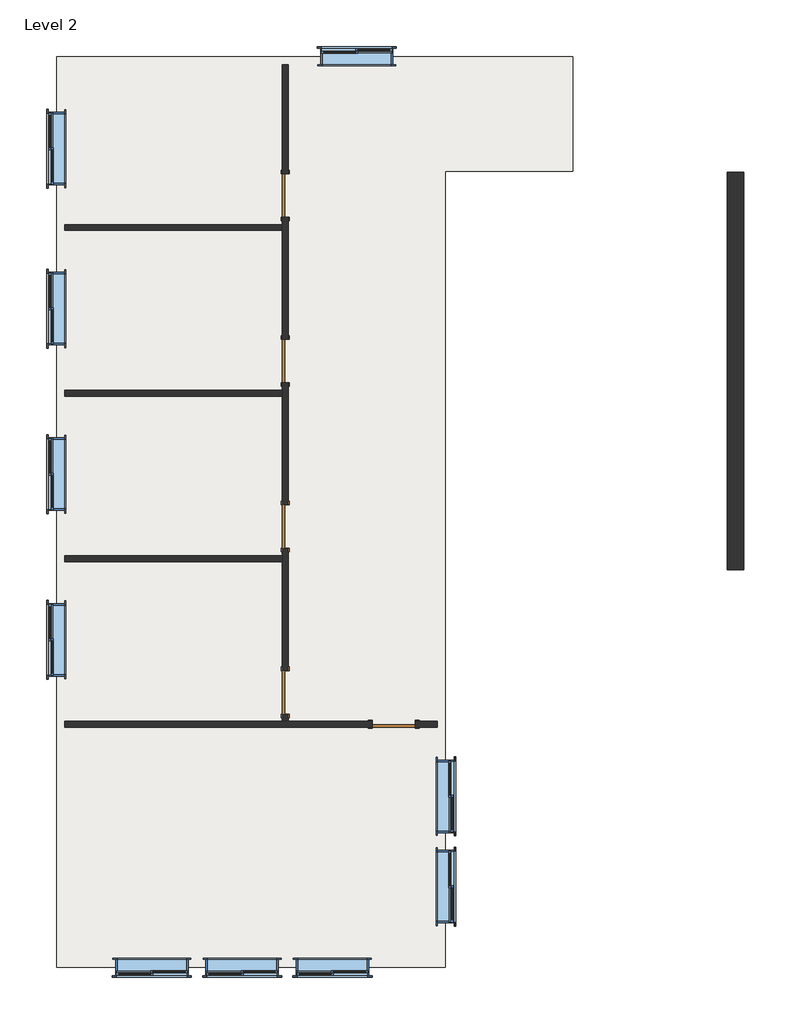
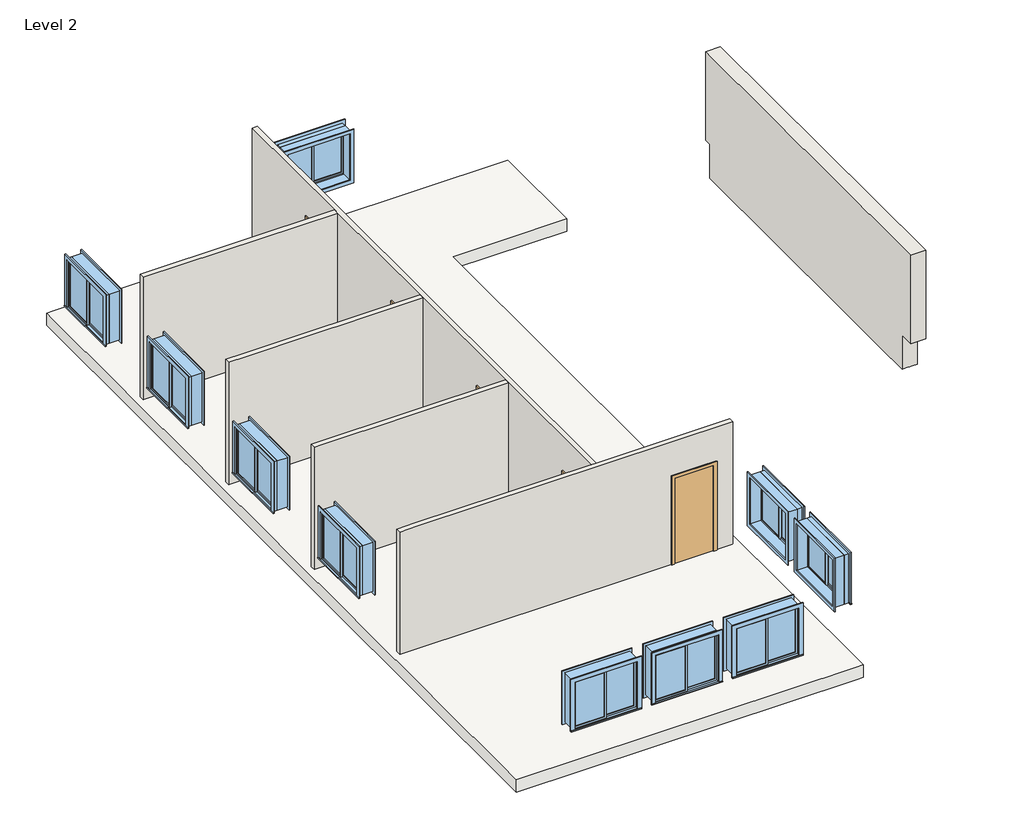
# One storey: 10 windows, 6 walls, 5 doors, 1 slab.
"""IFC4 building model written with IfcOpenShell, lengths in millimetres."""

from ifc_helpers import new_model, si_unit, frame, origin, place, context, project, spatial, polyline, outline, extrude, faceted_brep, transform, mapped, element, save
from components import door_eb9f8b14, window_8313e728

model = new_model("IFC4")

# Units and contexts
model_context = context("Model", 3, world=origin())
ifc_project = project(units=[si_unit("LENGTHUNIT", "METRE", prefix="MILLI")], contexts=[model_context])

# Site, building, storey
site = spatial("IfcSite", under=ifc_project)
building = spatial("IfcBuilding", under=site)
storey = spatial("IfcBuildingStorey", under=building, Name="Level 2", Elevation=3060.0)

# Doors
placement = place(None, origin())
door_shape = door_eb9f8b14(model_context)
element("IfcDoor", 1, ObjectType="Single-Flush : 36\" x 84\"", at=placement, inside=storey, context=model_context, shape_type="MappedRepresentation", body=[
    mapped(door_shape, transform((-6668.5516552, -3294.8769576, 3060.0), x_axis=(1.0, 0.0, 0.0), y_axis=(0.0, 1.0, 0.0), z_axis=(0.0, 0.0, 1.0))),
])
element("IfcDoor", 2, ObjectType="Single-Flush : 36\" x 84\"", at=placement, inside=storey, context=model_context, shape_type="MappedRepresentation", body=[
    mapped(door_shape, transform((-8949.7891552, -2623.3644576, 3060.0), x_axis=(0.0, -1.0, 0.0), y_axis=(1.0, 0.0, 0.0), z_axis=(0.0, 0.0, 1.0))),
])
element("IfcDoor", 3, ObjectType="Single-Flush : 36\" x 84\"", at=placement, inside=storey, context=model_context, shape_type="MappedRepresentation", body=[
    mapped(door_shape, transform((-8949.7891552, 862.7855424, 3060.0), x_axis=(0.0, -1.0, 0.0), y_axis=(1.0, 0.0, 0.0), z_axis=(0.0, 0.0, 1.0))),
])
element("IfcDoor", 4, ObjectType="Single-Flush : 36\" x 84\"", at=placement, inside=storey, context=model_context, shape_type="MappedRepresentation", body=[
    mapped(door_shape, transform((-8949.7891552, 4339.4105424, 3060.0), x_axis=(0.0, -1.0, 0.0), y_axis=(1.0, 0.0, 0.0), z_axis=(0.0, 0.0, 1.0))),
])
element("IfcDoor", 5, ObjectType="Single-Flush : 36\" x 84\"", at=placement, inside=storey, context=model_context, shape_type="MappedRepresentation", body=[
    mapped(door_shape, transform((-8949.7891552, 7820.7980424, 3060.0), x_axis=(0.0, -1.0, 0.0), y_axis=(1.0, 0.0, 0.0), z_axis=(0.0, 0.0, 1.0))),
])

# Slab
element("IfcSlab", 6, ObjectType="Generic - 12\"", at=placement, inside=storey, context=model_context, shape_type="Brep", body=[
    faceted_brep([(-13748.8016552, 10733.8605424, 2755.2), (-13583.7016552, 10733.8605424, 2755.2), (-2909.3516552, 10733.8605424, 2755.2), (-2909.3516552, 10568.7605424, 2755.2), (-2909.3516552, 8335.327236, 2755.2), (-5589.0516552, 8335.327236, 2755.2), (-5589.0516552, 300.8105424, 2755.2), (-5589.0516552, -8398.6894576, 2755.2), (-5754.1516552, -8398.6894576, 2755.2), (-13748.8016552, -8398.6894576, 2755.2), (-13748.8016552, -8233.5894576, 2755.2), (-13748.8016552, 10733.8605424, 3060.0), (-13748.8016552, -8233.5894576, 3060.0), (-13748.8016552, -8398.6894576, 3060.0), (-5754.1516552, -8398.6894576, 3060.0), (-5589.0516552, -8398.6894576, 3060.0), (-5589.0516552, 300.8105424, 3060.0), (-5589.0516552, 8335.327236, 3060.0), (-2909.3516552, 8335.327236, 3060.0), (-2909.3516552, 10568.7605424, 3060.0), (-2909.3516552, 10733.8605424, 3060.0), (-13583.7016552, 10733.8605424, 3060.0)], [[[0, 1, 2, 3, 4, 5, 6, 7, 8, 9, 10]], [[11, 12, 13, 14, 15, 16, 17, 18, 19, 20, 21]], [[2, 1, 0, 11, 21, 20]], [[4, 3, 2, 20, 19, 18]], [[5, 4, 18, 17]], [[7, 6, 5, 17, 16, 15]], [[9, 8, 7, 15, 14, 13]], [[0, 10, 9, 13, 12, 11]]]),
])

# Walls
element("IfcWall", 7, ObjectType="Exterior - Brick on Mtl. Stud", at=placement, inside=storey, context=model_context, shape_type="Brep", body=[
    faceted_brep([(341.8483448, 8130.3605424, 3060.0), (341.8483448, 2791.5980424, 3060.0), (341.8483448, 1165.9980424, 3060.0), (341.8483448, 300.8105424, 3060.0), (341.8483448, 300.8105424, 3900.0), (341.8483448, -51.6144576, 3900.0), (341.8483448, -51.6144576, 6100.0), (341.8483448, 300.8105424, 6100.0), (341.8483448, 8306.5730424, 6100.0), (341.8483448, 8306.5730424, 3900.0), (341.8483448, 8130.3605424, 3900.0), (694.2733448, 8130.3605424, 3060.0), (694.2733448, 8130.3605424, 3900.0), (694.2733448, 8306.5730424, 3900.0), (694.2733448, 8306.5730424, 6100.0), (694.2733448, -51.6144576, 6100.0), (694.2733448, -51.6144576, 3900.0), (694.2733448, 300.8105424, 3900.0), (694.2733448, 300.8105424, 3060.0), (465.6733448, 8130.3605424, 3060.0), (545.0483448, 8130.3605424, 3060.0), (545.0483448, 300.8105424, 3060.0), (518.0608448, 300.8105424, 3060.0), (465.6733448, 300.8105424, 3060.0)], [[[0, 1, 2, 3, 4, 5, 6, 7, 8, 9, 10]], [[11, 12, 13, 14, 15, 16, 17, 18]], [[3, 2, 1, 0, 19, 20, 11, 18, 21, 22, 23]], [[8, 7, 6, 15, 14]], [[9, 8, 14, 13]], [[9, 13, 12, 10]], [[0, 10, 12, 11, 20, 19]], [[16, 5, 4, 17]], [[4, 3, 23, 22, 21, 18, 17]], [[6, 5, 16, 15]]]),
])
element("IfcWall", 8, ObjectType="Interior - 4 7/8\" Partition (1-hr)", at=placement, inside=storey, context=model_context, shape_type="Brep", body=[
    faceted_brep([(-8887.8766552, 4796.6105424, 3060.0), (-8887.8766552, 7363.5980424, 3060.0), (-8887.8766552, 7363.5980424, 5193.6), (-8887.8766552, 8277.9980424, 5193.6), (-8887.8766552, 8277.9980424, 3060.0), (-8887.8766552, 10568.7605424, 3060.0), (-8887.8766552, 10568.7605424, 6100.0), (-8887.8766552, -3232.9644576, 6100.0), (-8887.8766552, -3232.9644576, 3060.0), (-8887.8766552, -3080.5644576, 3060.0), (-8887.8766552, -3080.5644576, 5193.6), (-8887.8766552, -2166.1644576, 5193.6), (-8887.8766552, -2166.1644576, 3060.0), (-8887.8766552, 405.5855424, 3060.0), (-8887.8766552, 405.5855424, 5193.6), (-8887.8766552, 1319.9855424, 5193.6), (-8887.8766552, 1319.9855424, 3060.0), (-8887.8766552, 3882.2105424, 3060.0), (-8887.8766552, 3882.2105424, 5193.6), (-8887.8766552, 4796.6105424, 5193.6), (-9011.7016552, 7363.5980424, 5193.6), (-9011.7016552, 7363.5980424, 3060.0), (-9011.7016552, 7211.1980424, 3060.0), (-9011.7016552, 7087.3730424, 3060.0), (-9011.7016552, 4796.6105424, 3060.0), (-9011.7016552, 4796.6105424, 5193.6), (-9011.7016552, 3882.2105424, 5193.6), (-9011.7016552, 3882.2105424, 3060.0), (-9011.7016552, 3729.8105424, 3060.0), (-9011.7016552, 3605.9855424, 3060.0), (-9011.7016552, 1319.9855424, 3060.0), (-9011.7016552, 1319.9855424, 5193.6), (-9011.7016552, 405.5855424, 5193.6), (-9011.7016552, 405.5855424, 3060.0), (-9011.7016552, 248.4230424, 3060.0), (-9011.7016552, 124.5980424, 3060.0), (-9011.7016552, -2166.1644576, 3060.0), (-9011.7016552, -2166.1644576, 5193.6), (-9011.7016552, -3080.5644576, 5193.6), (-9011.7016552, -3080.5644576, 3060.0), (-9011.7016552, -3232.9644576, 3060.0), (-9011.7016552, -3232.9644576, 6100.0), (-9011.7016552, 124.5980424, 6100.0), (-9011.7016552, 248.4230424, 6100.0), (-9011.7016552, 3605.9855424, 6100.0), (-9011.7016552, 3729.8105424, 6100.0), (-9011.7016552, 7087.3730424, 6100.0), (-9011.7016552, 7211.1980424, 6100.0), (-9011.7016552, 10568.7605424, 6100.0), (-9011.7016552, 10568.7605424, 3060.0), (-9011.7016552, 8277.9980424, 3060.0), (-9011.7016552, 8277.9980424, 5193.6)], [[[0, 1, 2, 3, 4, 5, 6, 7, 8, 9, 10, 11, 12, 13, 14, 15, 16, 17, 18, 19]], [[20, 21, 22, 23, 24, 25, 26, 27, 28, 29, 30, 31, 32, 33, 34, 35, 36, 37, 38, 39, 40, 41, 42, 43, 44, 45, 46, 47, 48, 49, 50, 51]], [[40, 39, 9, 8]], [[36, 35, 34, 33, 13, 12]], [[30, 29, 28, 27, 17, 16]], [[50, 49, 5, 4]], [[24, 23, 22, 21, 1, 0]], [[7, 6, 48, 47, 46, 45, 44, 43, 42, 41]], [[8, 7, 41, 40]], [[10, 9, 39, 38]], [[11, 10, 38, 37]], [[12, 11, 37, 36]], [[14, 13, 33, 32]], [[15, 14, 32, 31]], [[16, 15, 31, 30]], [[18, 17, 27, 26]], [[19, 18, 26, 25]], [[0, 19, 25, 24]], [[2, 1, 21, 20]], [[3, 2, 20, 51]], [[4, 3, 51, 50]], [[6, 5, 49, 48]]]),
])
element("IfcWall", 9, ObjectType="Interior - 4 7/8\" Partition (1-hr)", at=placement, inside=storey, context=model_context, shape_type="Brep", body=[
    faceted_brep([(-6211.3516552, -3356.7894576, 5193.6), (-6211.3516552, -3356.7894576, 3060.0), (-5754.1516552, -3356.7894576, 3060.0), (-5754.1516552, -3356.7894576, 6100.0), (-13177.3016552, -3356.7894576, 6100.0), (-13583.7016552, -3356.7894576, 6100.0), (-13583.7016552, -3356.7894576, 3060.0), (-13177.3016552, -3356.7894576, 3060.0), (-7125.7516552, -3356.7894576, 3060.0), (-7125.7516552, -3356.7894576, 5193.6), (-5754.1516552, -3232.9644576, 3060.0), (-6211.3516552, -3232.9644576, 3060.0), (-6211.3516552, -3232.9644576, 5193.6), (-7125.7516552, -3232.9644576, 5193.6), (-7125.7516552, -3232.9644576, 3060.0), (-8887.8766552, -3232.9644576, 3060.0), (-9011.7016552, -3232.9644576, 3060.0), (-13177.3016552, -3232.9644576, 3060.0), (-13583.7016552, -3232.9644576, 3060.0), (-13583.7016552, -3232.9644576, 6100.0), (-13177.3016552, -3232.9644576, 6100.0), (-9011.7016552, -3232.9644576, 6100.0), (-8887.8766552, -3232.9644576, 6100.0), (-5754.1516552, -3232.9644576, 6100.0)], [[[0, 1, 2, 3, 4, 5, 6, 7, 8, 9]], [[10, 11, 12, 13, 14, 15, 16, 17, 18, 19, 20, 21, 22, 23]], [[2, 1, 11, 10]], [[8, 7, 6, 18, 17, 16, 15, 14]], [[5, 4, 3, 23, 22, 21, 20, 19]], [[12, 11, 1, 0]], [[13, 12, 0, 9]], [[14, 13, 9, 8]], [[3, 2, 10, 23]], [[6, 5, 19, 18]]]),
])
element("IfcWall", 10, ObjectType="Interior - 4 7/8\" Partition (1-hr)", at=placement, inside=storey, context=model_context, shape_type="SweptSolid", body=[
    extrude(outline(polyline([(-9011.7016552, 124.5980424), (-13583.7016552, 124.5980424), (-13583.7016552, 248.4230424), (-9011.7016552, 248.4230424), (-9011.7016552, 124.5980424)])), frame((0.0, 0.0, 3060.0), z_axis=(0.0, 0.0, 1.0), x_axis=(1.0, 0.0, 0.0)), (0.0, 0.0, 1.0), 3040.0),
])
element("IfcWall", 11, ObjectType="Interior - 4 7/8\" Partition (1-hr)", at=placement, inside=storey, context=model_context, shape_type="Brep", body=[
    faceted_brep([(-13583.7016552, 3605.9855424, 3060.0), (-13177.3016552, 3605.9855424, 3060.0), (-9011.7016552, 3605.9855424, 3060.0), (-9011.7016552, 3605.9855424, 6100.0), (-13177.3016552, 3605.9855424, 6100.0), (-13583.7016552, 3605.9855424, 6100.0), (-13583.7016552, 3729.8105424, 3060.0), (-13583.7016552, 3729.8105424, 6100.0), (-13177.3016552, 3729.8105424, 6100.0), (-9011.7016552, 3729.8105424, 6100.0), (-9011.7016552, 3729.8105424, 3060.0), (-13177.3016552, 3729.8105424, 3060.0)], [[[0, 1, 2, 3, 4, 5]], [[6, 7, 8, 9, 10, 11]], [[2, 1, 0, 6, 11, 10]], [[5, 4, 3, 9, 8, 7]], [[3, 2, 10, 9]], [[0, 5, 7, 6]]]),
])
element("IfcWall", 12, ObjectType="Interior - 4 7/8\" Partition (1-hr)", at=placement, inside=storey, context=model_context, shape_type="SweptSolid", body=[
    extrude(outline(polyline([(-9011.7016552, 7087.3730424), (-13583.7016552, 7087.3730424), (-13583.7016552, 7211.1980424), (-9011.7016552, 7211.1980424), (-9011.7016552, 7087.3730424)])), frame((0.0, 0.0, 3060.0), z_axis=(0.0, 0.0, 1.0), x_axis=(1.0, 0.0, 0.0)), (0.0, 0.0, 1.0), 3040.0),
])

# Windows
window_shape = window_8313e728(model_context)
element("IfcWindow", 13, ObjectType="Slider with Trim : 60\" x 48\"", at=placement, inside=storey, context=model_context, shape_type="MappedRepresentation", body=[
    mapped(window_shape, transform((-13759.9141552, -1519.2582076, 3060.0), x_axis=(0.0, 1.0, 0.0), y_axis=(-1.0, 0.0, 0.0), z_axis=(0.0, 0.0, 1.0))),
])
element("IfcWindow", 14, ObjectType="Slider with Trim : 60\" x 48\"", at=placement, inside=storey, context=model_context, shape_type="MappedRepresentation", body=[
    mapped(window_shape, transform((-13759.9141552, 1962.1292924, 3060.0), x_axis=(0.0, 1.0, 0.0), y_axis=(-1.0, 0.0, 0.0), z_axis=(0.0, 0.0, 1.0))),
])
element("IfcWindow", 15, ObjectType="Slider with Trim : 60\" x 48\"", at=placement, inside=storey, context=model_context, shape_type="MappedRepresentation", body=[
    mapped(window_shape, transform((-13759.9141552, 5443.5167924, 3060.0), x_axis=(0.0, 1.0, 0.0), y_axis=(-1.0, 0.0, 0.0), z_axis=(0.0, 0.0, 1.0))),
])
element("IfcWindow", 16, ObjectType="Slider with Trim : 60\" x 48\"", at=placement, inside=storey, context=model_context, shape_type="MappedRepresentation", body=[
    mapped(window_shape, transform((-13759.9141552, 8805.0480424, 3060.0), x_axis=(0.0, 1.0, 0.0), y_axis=(-1.0, 0.0, 0.0), z_axis=(0.0, 0.0, 1.0))),
])
element("IfcWindow", 17, ObjectType="Slider with Trim : 60\" x 48\"", at=placement, inside=storey, context=model_context, shape_type="MappedRepresentation", body=[
    mapped(window_shape, transform((-11754.9016552, -8409.8019576, 3060.0), x_axis=(-1.0, 0.0, 0.0), y_axis=(0.0, -1.0, 0.0), z_axis=(0.0, 0.0, 1.0))),
])
element("IfcWindow", 18, ObjectType="Slider with Trim : 60\" x 48\"", at=placement, inside=storey, context=model_context, shape_type="MappedRepresentation", body=[
    mapped(window_shape, transform((-9856.2516552, -8409.8019576, 3060.0), x_axis=(-1.0, 0.0, 0.0), y_axis=(0.0, -1.0, 0.0), z_axis=(0.0, 0.0, 1.0))),
])
element("IfcWindow", 19, ObjectType="Slider with Trim : 60\" x 48\"", at=placement, inside=storey, context=model_context, shape_type="MappedRepresentation", body=[
    mapped(window_shape, transform((-7957.6016552, -8409.8019576, 3060.0), x_axis=(-1.0, 0.0, 0.0), y_axis=(0.0, -1.0, 0.0), z_axis=(0.0, 0.0, 1.0))),
])
element("IfcWindow", 20, ObjectType="Slider with Trim : 60\" x 48\"", at=placement, inside=storey, context=model_context, shape_type="MappedRepresentation", body=[
    mapped(window_shape, transform((-5577.9391552, -6709.5894576, 3060.0), x_axis=(0.0, -1.0, 0.0), y_axis=(1.0, 0.0, 0.0), z_axis=(0.0, 0.0, 1.0))),
])
element("IfcWindow", 21, ObjectType="Slider with Trim : 60\" x 48\"", at=placement, inside=storey, context=model_context, shape_type="MappedRepresentation", body=[
    mapped(window_shape, transform((-5577.9391552, -4810.9394576, 3060.0), x_axis=(0.0, -1.0, 0.0), y_axis=(1.0, 0.0, 0.0), z_axis=(0.0, 0.0, 1.0))),
])
element("IfcWindow", 22, ObjectType="Slider with Trim : 60\" x 48\"", at=placement, inside=storey, context=model_context, shape_type="MappedRepresentation", body=[
    mapped(window_shape, transform((-7446.4266552, 10744.9730424, 3060.0), x_axis=(1.0, 0.0, 0.0), y_axis=(0.0, 1.0, 0.0), z_axis=(0.0, 0.0, 1.0))),
])

save(model, "model.ifc")
